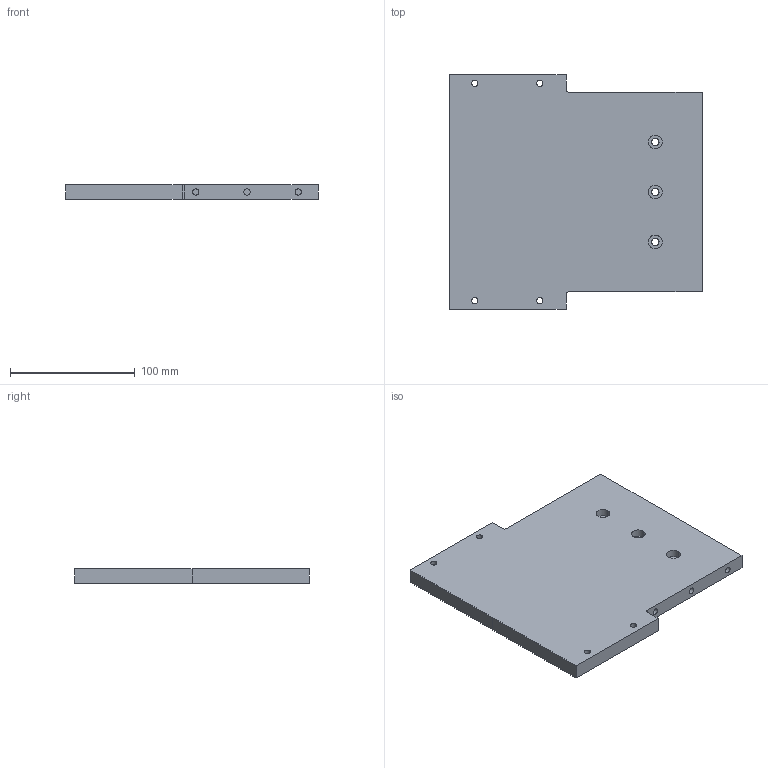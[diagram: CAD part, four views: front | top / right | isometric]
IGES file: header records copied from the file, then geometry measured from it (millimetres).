
Start section:  PTC IGES file: h160-k80l-bp-r.igs
Global section: file name: h160-k80l-bp-r.igs; native system: Pro/ENGINEER by Parametric Technology Corporation; preprocessor: 2008230; author: Owner; organization: Unknown; date: 20121211.141253; units: millimetre
Bounding box: 202 x 188 x 12 mm (x, y, z)
Surface area: 81050.6 mm2 (no closed solid volume)
Topology: 0 solids, 0 shells, 46 faces, 228 edges, 228 vertices
Faces by surface type: revolution 28, bspline 18
